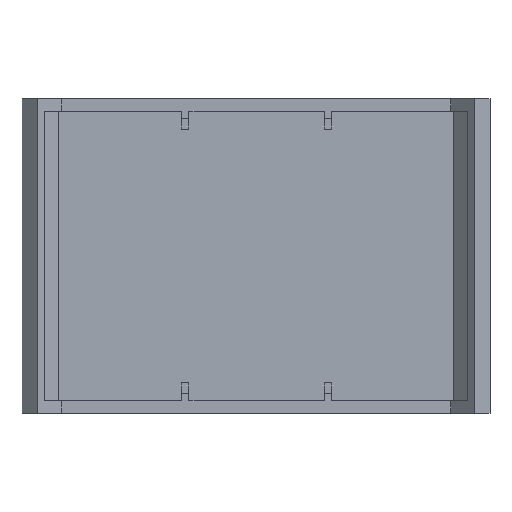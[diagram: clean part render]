
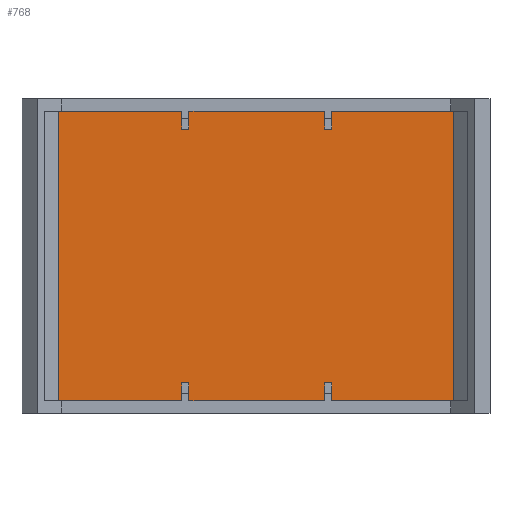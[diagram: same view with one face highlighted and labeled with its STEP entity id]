
A CAD part, front view. The second image highlights one B-rep face of the part: STEP entity #768.
In plain terms, the highlighted planar face has unit normal (0, -1, 0).
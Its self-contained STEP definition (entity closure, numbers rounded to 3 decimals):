
#9 = VECTOR ( 'NONE', #443, 1000. ) ;
#18 = LINE ( 'NONE', #19, #194 ) ;
#19 = CARTESIAN_POINT ( 'NONE',  ( -55.018, -18.469, 84.5 ) ) ;
#29 = VECTOR ( 'NONE', #1010, 1000. ) ;
#32 = EDGE_CURVE ( 'NONE', #1083, #564, #1065, .T. ) ;
#41 = VERTEX_POINT ( 'NONE', #1422 ) ;
#62 = LINE ( 'NONE', #224, #29 ) ;
#63 = EDGE_CURVE ( 'NONE', #1029, #1083, #62, .T. ) ;
#83 = CARTESIAN_POINT ( 'NONE',  ( -14.518, -18.469, 8.5 ) ) ;
#90 = DIRECTION ( 'NONE',  ( 0., -1., 0. ) ) ;
#98 = CARTESIAN_POINT ( 'NONE',  ( 25.482, -18.469, 79.5 ) ) ;
#101 = LINE ( 'NONE', #493, #808 ) ;
#107 = CARTESIAN_POINT ( 'NONE',  ( -14.518, -18.469, 79.5 ) ) ;
#110 = EDGE_CURVE ( 'NONE', #130, #245, #121, .T. ) ;
#121 = LINE ( 'NONE', #798, #124 ) ;
#124 = VECTOR ( 'NONE', #907, 1000. ) ;
#129 = DIRECTION ( 'NONE',  ( 0., 0., -1. ) ) ;
#130 = VERTEX_POINT ( 'NONE', #518 ) ;
#138 = VECTOR ( 'NONE', #559, 1000. ) ;
#144 = CARTESIAN_POINT ( 'NONE',  ( 25.482, -18.469, 8.5 ) ) ;
#160 = CARTESIAN_POINT ( 'NONE',  ( -16.518, -18.469, 79.5 ) ) ;
#164 = VECTOR ( 'NONE', #523, 1000. ) ;
#173 = EDGE_CURVE ( 'NONE', #1349, #484, #184, .T. ) ;
#182 = DIRECTION ( 'NONE',  ( 0., 0., 1. ) ) ;
#184 = LINE ( 'NONE', #189, #164 ) ;
#189 = CARTESIAN_POINT ( 'NONE',  ( 23.482, -18.469, 79.5 ) ) ;
#194 = VECTOR ( 'NONE', #815, 1000. ) ;
#210 = CARTESIAN_POINT ( 'NONE',  ( 25.482, -18.469, 84.5 ) ) ;
#223 = CARTESIAN_POINT ( 'NONE',  ( -55.018, -18.469, 84.5 ) ) ;
#224 = CARTESIAN_POINT ( 'NONE',  ( -16.518, -18.469, 79.5 ) ) ;
#233 = VECTOR ( 'NONE', #350, 1000. ) ;
#245 = VERTEX_POINT ( 'NONE', #1313 ) ;
#247 = VECTOR ( 'NONE', #660, 1000. ) ;
#265 = VERTEX_POINT ( 'NONE', #210 ) ;
#267 = DIRECTION ( 'NONE',  ( 0., 0., -1. ) ) ;
#276 = LINE ( 'NONE', #941, #1107 ) ;
#278 = LINE ( 'NONE', #550, #247 ) ;
#285 = EDGE_CURVE ( 'NONE', #484, #584, #278, .T. ) ;
#286 = LINE ( 'NONE', #914, #233 ) ;
#287 = EDGE_CURVE ( 'NONE', #584, #265, #295, .T. ) ;
#295 = LINE ( 'NONE', #1322, #307 ) ;
#307 = VECTOR ( 'NONE', #1411, 1000. ) ;
#323 = EDGE_CURVE ( 'NONE', #130, #1100, #286, .T. ) ;
#328 = VECTOR ( 'NONE', #793, 1000. ) ;
#330 = DIRECTION ( 'NONE',  ( -1., 0., 0. ) ) ;
#341 = VECTOR ( 'NONE', #587, 1000. ) ;
#342 = CARTESIAN_POINT ( 'NONE',  ( 59.482, -18.469, 84.5 ) ) ;
#350 = DIRECTION ( 'NONE',  ( 0., 0., 1. ) ) ;
#367 = ORIENTED_EDGE ( 'NONE', *, *, #510, .T. ) ;
#370 = LINE ( 'NONE', #1141, #341 ) ;
#371 = EDGE_CURVE ( 'NONE', #739, #41, #370, .T. ) ;
#379 = EDGE_CURVE ( 'NONE', #615, #1029, #402, .T. ) ;
#398 = VERTEX_POINT ( 'NONE', #1353 ) ;
#402 = LINE ( 'NONE', #460, #418 ) ;
#418 = VECTOR ( 'NONE', #129, 1000. ) ;
#443 = DIRECTION ( 'NONE',  ( 0., 0., 1. ) ) ;
#446 = CARTESIAN_POINT ( 'NONE',  ( -55.018, -18.469, 84.5 ) ) ;
#460 = CARTESIAN_POINT ( 'NONE',  ( -16.518, -18.469, 79.5 ) ) ;
#476 = DIRECTION ( 'NONE',  ( 1., 0., 0. ) ) ;
#484 = VERTEX_POINT ( 'NONE', #1306 ) ;
#493 = CARTESIAN_POINT ( 'NONE',  ( -16.518, -18.469, 8.5 ) ) ;
#510 = EDGE_CURVE ( 'NONE', #843, #739, #694, .T. ) ;
#517 = LINE ( 'NONE', #446, #328 ) ;
#518 = CARTESIAN_POINT ( 'NONE',  ( -14.518, -18.469, 3.5 ) ) ;
#521 = CARTESIAN_POINT ( 'NONE',  ( 59.482, -18.469, 84.5 ) ) ;
#523 = DIRECTION ( 'NONE',  ( 0., 0., -1. ) ) ;
#524 = CARTESIAN_POINT ( 'NONE',  ( 25.482, -18.469, 3.5 ) ) ;
#525 = CARTESIAN_POINT ( 'NONE',  ( -51.018, -18.469, 3.5 ) ) ;
#527 = EDGE_CURVE ( 'NONE', #398, #41, #749, .T. ) ;
#532 = CARTESIAN_POINT ( 'NONE',  ( -14.518, -18.469, 79.5 ) ) ;
#550 = CARTESIAN_POINT ( 'NONE',  ( 23.482, -18.469, 79.5 ) ) ;
#559 = DIRECTION ( 'NONE',  ( -1., 0., 0. ) ) ;
#564 = VERTEX_POINT ( 'NONE', #989 ) ;
#568 = ORIENTED_EDGE ( 'NONE', *, *, #1378, .T. ) ;
#570 = CARTESIAN_POINT ( 'NONE',  ( 23.482, -18.469, 8.5 ) ) ;
#575 = CARTESIAN_POINT ( 'NONE',  ( 23.482, -18.469, 84.5 ) ) ;
#584 = VERTEX_POINT ( 'NONE', #98 ) ;
#585 = VERTEX_POINT ( 'NONE', #1000 ) ;
#587 = DIRECTION ( 'NONE',  ( 1., 0., 0. ) ) ;
#603 = ORIENTED_EDGE ( 'NONE', *, *, #323, .F. ) ;
#612 = EDGE_CURVE ( 'NONE', #1325, #265, #803, .T. ) ;
#615 = VERTEX_POINT ( 'NONE', #1116 ) ;
#638 = DIRECTION ( 'NONE',  ( 0., 0., 1. ) ) ;
#639 = AXIS2_PLACEMENT_3D ( 'NONE', #771, #90, #883 ) ;
#653 = CARTESIAN_POINT ( 'NONE',  ( -51.018, -18.469, 3.5 ) ) ;
#660 = DIRECTION ( 'NONE',  ( 1., 0., 0. ) ) ;
#667 = EDGE_CURVE ( 'NONE', #1071, #880, #1132, .T. ) ;
#682 = EDGE_CURVE ( 'NONE', #975, #1325, #1091, .T. ) ;
#694 = LINE ( 'NONE', #653, #786 ) ;
#695 = CARTESIAN_POINT ( 'NONE',  ( -51.018, -18.469, 84.5 ) ) ;
#698 = ORIENTED_EDGE ( 'NONE', *, *, #850, .T. ) ;
#712 = CARTESIAN_POINT ( 'NONE',  ( -55.018, -18.469, 3.5 ) ) ;
#739 = VERTEX_POINT ( 'NONE', #525 ) ;
#743 = ORIENTED_EDGE ( 'NONE', *, *, #173, .F. ) ;
#749 = LINE ( 'NONE', #1314, #789 ) ;
#756 = ORIENTED_EDGE ( 'NONE', *, *, #371, .T. ) ;
#767 = PLANE ( 'NONE',  #639 ) ;
#768 = ADVANCED_FACE ( 'NONE', ( #1370 ), #767, .T. ) ;
#771 = CARTESIAN_POINT ( 'NONE',  ( 0., -18.469, 0. ) ) ;
#775 = DIRECTION ( 'NONE',  ( 0., 0., -1. ) ) ;
#786 = VECTOR ( 'NONE', #867, 1000. ) ;
#789 = VECTOR ( 'NONE', #775, 1000. ) ;
#793 = DIRECTION ( 'NONE',  ( -1., 0., 0. ) ) ;
#798 = CARTESIAN_POINT ( 'NONE',  ( -55.018, -18.469, 3.5 ) ) ;
#803 = LINE ( 'NONE', #223, #956 ) ;
#808 = VECTOR ( 'NONE', #1274, 1000. ) ;
#815 = DIRECTION ( 'NONE',  ( -1., 0., 0. ) ) ;
#830 = ORIENTED_EDGE ( 'NONE', *, *, #1289, .F. ) ;
#832 = CARTESIAN_POINT ( 'NONE',  ( 59.482, -18.469, 3.5 ) ) ;
#843 = VERTEX_POINT ( 'NONE', #695 ) ;
#850 = EDGE_CURVE ( 'NONE', #1349, #564, #18, .T. ) ;
#867 = DIRECTION ( 'NONE',  ( 0., 0., -1. ) ) ;
#870 = ORIENTED_EDGE ( 'NONE', *, *, #987, .F. ) ;
#880 = VERTEX_POINT ( 'NONE', #144 ) ;
#883 = DIRECTION ( 'NONE',  ( 0., 0., -1. ) ) ;
#907 = DIRECTION ( 'NONE',  ( 1., 0., 0. ) ) ;
#914 = CARTESIAN_POINT ( 'NONE',  ( -14.518, -18.469, 8.5 ) ) ;
#918 = ORIENTED_EDGE ( 'NONE', *, *, #32, .F. ) ;
#941 = CARTESIAN_POINT ( 'NONE',  ( 23.482, -18.469, 8.5 ) ) ;
#956 = VECTOR ( 'NONE', #330, 1000. ) ;
#960 = ORIENTED_EDGE ( 'NONE', *, *, #1254, .T. ) ;
#975 = VERTEX_POINT ( 'NONE', #832 ) ;
#987 = EDGE_CURVE ( 'NONE', #1100, #398, #101, .T. ) ;
#989 = CARTESIAN_POINT ( 'NONE',  ( -14.518, -18.469, 84.5 ) ) ;
#993 = ORIENTED_EDGE ( 'NONE', *, *, #285, .F. ) ;
#1000 = CARTESIAN_POINT ( 'NONE',  ( 23.482, -18.469, 8.5 ) ) ;
#1010 = DIRECTION ( 'NONE',  ( 1., 0., 0. ) ) ;
#1028 = ORIENTED_EDGE ( 'NONE', *, *, #667, .F. ) ;
#1029 = VERTEX_POINT ( 'NONE', #160 ) ;
#1051 = ORIENTED_EDGE ( 'NONE', *, *, #682, .T. ) ;
#1065 = LINE ( 'NONE', #107, #9 ) ;
#1071 = VERTEX_POINT ( 'NONE', #524 ) ;
#1076 = VECTOR ( 'NONE', #638, 1000. ) ;
#1081 = VECTOR ( 'NONE', #476, 1000. ) ;
#1083 = VERTEX_POINT ( 'NONE', #532 ) ;
#1091 = LINE ( 'NONE', #521, #1076 ) ;
#1100 = VERTEX_POINT ( 'NONE', #83 ) ;
#1107 = VECTOR ( 'NONE', #267, 1000. ) ;
#1116 = CARTESIAN_POINT ( 'NONE',  ( -16.518, -18.469, 84.5 ) ) ;
#1132 = LINE ( 'NONE', #1188, #1147 ) ;
#1141 = CARTESIAN_POINT ( 'NONE',  ( -55.018, -18.469, 3.5 ) ) ;
#1147 = VECTOR ( 'NONE', #182, 1000. ) ;
#1170 = ORIENTED_EDGE ( 'NONE', *, *, #63, .F. ) ;
#1188 = CARTESIAN_POINT ( 'NONE',  ( 25.482, -18.469, 8.5 ) ) ;
#1202 = LINE ( 'NONE', #570, #138 ) ;
#1241 = ORIENTED_EDGE ( 'NONE', *, *, #110, .T. ) ;
#1244 = ORIENTED_EDGE ( 'NONE', *, *, #379, .F. ) ;
#1254 = EDGE_CURVE ( 'NONE', #615, #843, #517, .T. ) ;
#1274 = DIRECTION ( 'NONE',  ( -1., 0., 0. ) ) ;
#1289 = EDGE_CURVE ( 'NONE', #880, #585, #1202, .T. ) ;
#1298 = LINE ( 'NONE', #712, #1081 ) ;
#1303 = ORIENTED_EDGE ( 'NONE', *, *, #1383, .F. ) ;
#1306 = CARTESIAN_POINT ( 'NONE',  ( 23.482, -18.469, 79.5 ) ) ;
#1313 = CARTESIAN_POINT ( 'NONE',  ( 23.482, -18.469, 3.5 ) ) ;
#1314 = CARTESIAN_POINT ( 'NONE',  ( -16.518, -18.469, 8.5 ) ) ;
#1321 = ORIENTED_EDGE ( 'NONE', *, *, #527, .F. ) ;
#1322 = CARTESIAN_POINT ( 'NONE',  ( 25.482, -18.469, 79.5 ) ) ;
#1325 = VERTEX_POINT ( 'NONE', #342 ) ;
#1349 = VERTEX_POINT ( 'NONE', #575 ) ;
#1353 = CARTESIAN_POINT ( 'NONE',  ( -16.518, -18.469, 8.5 ) ) ;
#1363 = ORIENTED_EDGE ( 'NONE', *, *, #612, .T. ) ;
#1370 = FACE_OUTER_BOUND ( 'NONE', #1384, .T. ) ;
#1375 = ORIENTED_EDGE ( 'NONE', *, *, #287, .F. ) ;
#1378 = EDGE_CURVE ( 'NONE', #1071, #975, #1298, .T. ) ;
#1383 = EDGE_CURVE ( 'NONE', #585, #245, #276, .T. ) ;
#1384 = EDGE_LOOP ( 'NONE', ( #1241, #1303, #830, #1028, #568, #1051, #1363, #1375, #993, #743, #698, #918, #1170, #1244, #960, #367, #756, #1321, #870, #603 ) ) ;
#1411 = DIRECTION ( 'NONE',  ( 0., 0., 1. ) ) ;
#1422 = CARTESIAN_POINT ( 'NONE',  ( -16.518, -18.469, 3.5 ) ) ;
